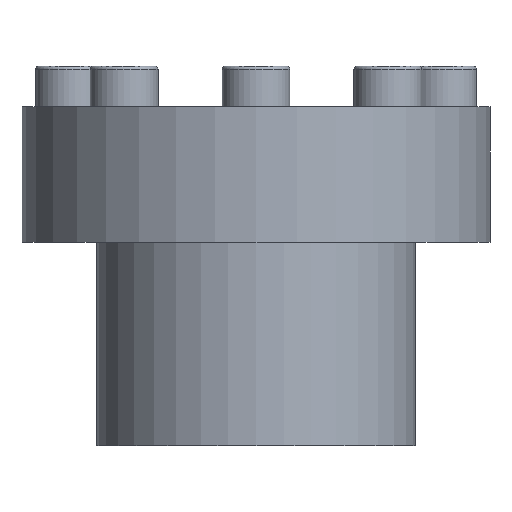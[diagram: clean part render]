
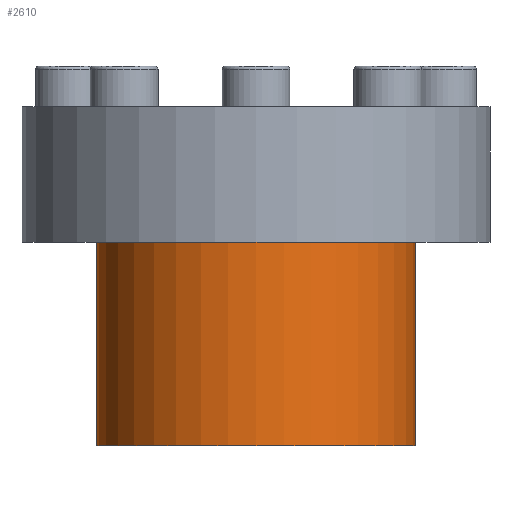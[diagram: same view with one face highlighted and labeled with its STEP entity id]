
A CAD part, front view. The second image highlights one B-rep face of the part: STEP entity #2610.
In plain terms, the highlighted cylindrical face has radius 23.5 mm (diameter 47 mm), a partial arc.
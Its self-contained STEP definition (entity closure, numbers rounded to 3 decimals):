
#277 = EDGE_CURVE ( 'NONE', #781, #2894, #1816, .T. ) ;
#361 = EDGE_LOOP ( 'NONE', ( #629, #870, #1388, #2277 ) ) ;
#378 = EDGE_CURVE ( 'NONE', #781, #2523, #1777, .T. ) ;
#458 = DIRECTION ( 'NONE',  ( 1., 0., 0. ) ) ;
#541 = VECTOR ( 'NONE', #869, 1000. ) ;
#629 = ORIENTED_EDGE ( 'NONE', *, *, #277, .F. ) ;
#663 = FACE_OUTER_BOUND ( 'NONE', #361, .T. ) ;
#717 = EDGE_CURVE ( 'NONE', #2894, #1926, #1983, .T. ) ;
#781 = VERTEX_POINT ( 'NONE', #889 ) ;
#869 = DIRECTION ( 'NONE',  ( 0., 0., 1. ) ) ;
#870 = ORIENTED_EDGE ( 'NONE', *, *, #378, .T. ) ;
#889 = CARTESIAN_POINT ( 'NONE',  ( -23.5, 0., -50. ) ) ;
#1008 = EDGE_CURVE ( 'NONE', #2523, #1926, #2872, .T. ) ;
#1095 = AXIS2_PLACEMENT_3D ( 'NONE', #2228, #2260, #2456 ) ;
#1111 = CARTESIAN_POINT ( 'NONE',  ( 23.5, 0., -20. ) ) ;
#1307 = AXIS2_PLACEMENT_3D ( 'NONE', #1587, #1353, #2962 ) ;
#1353 = DIRECTION ( 'NONE',  ( 0., 0., 1. ) ) ;
#1368 = CARTESIAN_POINT ( 'NONE',  ( -23.5, 0., 0. ) ) ;
#1388 = ORIENTED_EDGE ( 'NONE', *, *, #1008, .T. ) ;
#1399 = CARTESIAN_POINT ( 'NONE',  ( 0., 0., -50. ) ) ;
#1474 = AXIS2_PLACEMENT_3D ( 'NONE', #1399, #2758, #458 ) ;
#1587 = CARTESIAN_POINT ( 'NONE',  ( 0., 0., 0. ) ) ;
#1677 = CYLINDRICAL_SURFACE ( 'NONE', #1307, 23.5 ) ;
#1686 = CARTESIAN_POINT ( 'NONE',  ( 23.5, 0., 0. ) ) ;
#1777 = CIRCLE ( 'NONE', #1474, 23.5 ) ;
#1816 = LINE ( 'NONE', #1368, #541 ) ;
#1926 = VERTEX_POINT ( 'NONE', #1111 ) ;
#1983 = CIRCLE ( 'NONE', #1095, 23.5 ) ;
#2158 = CARTESIAN_POINT ( 'NONE',  ( -23.5, 0., -20. ) ) ;
#2228 = CARTESIAN_POINT ( 'NONE',  ( 0., 0., -20. ) ) ;
#2260 = DIRECTION ( 'NONE',  ( 0., 0., 1. ) ) ;
#2265 = CARTESIAN_POINT ( 'NONE',  ( 23.5, 0., -50. ) ) ;
#2277 = ORIENTED_EDGE ( 'NONE', *, *, #717, .F. ) ;
#2456 = DIRECTION ( 'NONE',  ( 1., 0., 0. ) ) ;
#2475 = VECTOR ( 'NONE', #2587, 1000. ) ;
#2523 = VERTEX_POINT ( 'NONE', #2265 ) ;
#2587 = DIRECTION ( 'NONE',  ( 0., 0., 1. ) ) ;
#2610 = ADVANCED_FACE ( 'NONE', ( #663 ), #1677, .T. ) ;
#2758 = DIRECTION ( 'NONE',  ( 0., 0., 1. ) ) ;
#2872 = LINE ( 'NONE', #1686, #2475 ) ;
#2894 = VERTEX_POINT ( 'NONE', #2158 ) ;
#2962 = DIRECTION ( 'NONE',  ( 1., 0., 0. ) ) ;
